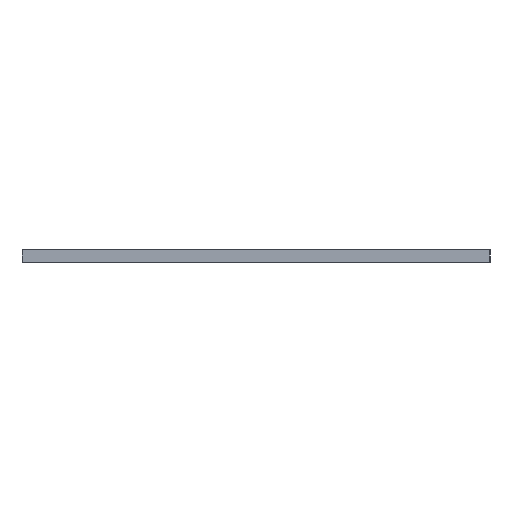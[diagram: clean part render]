
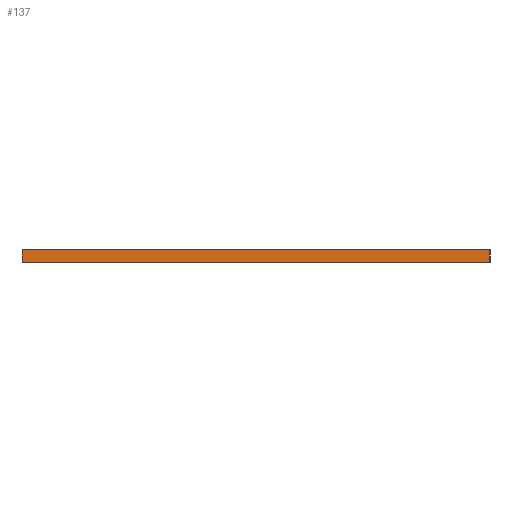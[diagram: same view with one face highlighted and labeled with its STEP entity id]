
A CAD part, left-side view. The second image highlights one B-rep face of the part: STEP entity #137.
In plain terms, the highlighted planar face has unit normal (-1, 0, 0).
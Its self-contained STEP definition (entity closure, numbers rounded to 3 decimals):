
#21 = EDGE_CURVE('',#22,#24,#26,.T.);
#22 = VERTEX_POINT('',#23);
#23 = CARTESIAN_POINT('',(-160.,-38.,0.));
#24 = VERTEX_POINT('',#25);
#25 = CARTESIAN_POINT('',(-160.,-38.,2.));
#26 = SURFACE_CURVE('',#27,(#31,#43),.PCURVE_S1.);
#27 = LINE('',#28,#29);
#28 = CARTESIAN_POINT('',(-160.,-38.,0.));
#29 = VECTOR('',#30,1.);
#30 = DIRECTION('',(0.,0.,1.));
#31 = PCURVE('',#32,#37);
#32 = PLANE('',#33);
#33 = AXIS2_PLACEMENT_3D('',#34,#35,#36);
#34 = CARTESIAN_POINT('',(-160.,-38.,0.));
#35 = DIRECTION('',(0.,1.,0.));
#36 = DIRECTION('',(1.,0.,0.));
#37 = DEFINITIONAL_REPRESENTATION('',(#38),#42);
#38 = LINE('',#39,#40);
#39 = CARTESIAN_POINT('',(0.,0.));
#40 = VECTOR('',#41,1.);
#41 = DIRECTION('',(0.,-1.));
#42 = ( GEOMETRIC_REPRESENTATION_CONTEXT(2) 
PARAMETRIC_REPRESENTATION_CONTEXT() REPRESENTATION_CONTEXT('2D SPACE',''
  ) );
#43 = PCURVE('',#44,#49);
#44 = PLANE('',#45);
#45 = AXIS2_PLACEMENT_3D('',#46,#47,#48);
#46 = CARTESIAN_POINT('',(-160.,38.,0.));
#47 = DIRECTION('',(1.,0.,-0.));
#48 = DIRECTION('',(0.,-1.,0.));
#49 = DEFINITIONAL_REPRESENTATION('',(#50),#54);
#50 = LINE('',#51,#52);
#51 = CARTESIAN_POINT('',(76.,0.));
#52 = VECTOR('',#53,1.);
#53 = DIRECTION('',(0.,-1.));
#54 = ( GEOMETRIC_REPRESENTATION_CONTEXT(2) 
PARAMETRIC_REPRESENTATION_CONTEXT() REPRESENTATION_CONTEXT('2D SPACE',''
  ) );
#72 = PLANE('',#73);
#73 = AXIS2_PLACEMENT_3D('',#74,#75,#76);
#74 = CARTESIAN_POINT('',(0.,0.,2.));
#75 = DIRECTION('',(0.,0.,1.));
#76 = DIRECTION('',(1.,0.,-0.));
#126 = PLANE('',#127);
#127 = AXIS2_PLACEMENT_3D('',#128,#129,#130);
#128 = CARTESIAN_POINT('',(0.,0.,0.));
#129 = DIRECTION('',(0.,0.,1.));
#130 = DIRECTION('',(1.,0.,-0.));
#137 = ADVANCED_FACE('',(#138),#44,.F.);
#138 = FACE_BOUND('',#139,.F.);
#139 = EDGE_LOOP('',(#140,#170,#191,#192));
#140 = ORIENTED_EDGE('',*,*,#141,.T.);
#141 = EDGE_CURVE('',#142,#144,#146,.T.);
#142 = VERTEX_POINT('',#143);
#143 = CARTESIAN_POINT('',(-160.,38.,0.));
#144 = VERTEX_POINT('',#145);
#145 = CARTESIAN_POINT('',(-160.,38.,2.));
#146 = SURFACE_CURVE('',#147,(#151,#158),.PCURVE_S1.);
#147 = LINE('',#148,#149);
#148 = CARTESIAN_POINT('',(-160.,38.,0.));
#149 = VECTOR('',#150,1.);
#150 = DIRECTION('',(0.,0.,1.));
#151 = PCURVE('',#44,#152);
#152 = DEFINITIONAL_REPRESENTATION('',(#153),#157);
#153 = LINE('',#154,#155);
#154 = CARTESIAN_POINT('',(0.,0.));
#155 = VECTOR('',#156,1.);
#156 = DIRECTION('',(0.,-1.));
#157 = ( GEOMETRIC_REPRESENTATION_CONTEXT(2) 
PARAMETRIC_REPRESENTATION_CONTEXT() REPRESENTATION_CONTEXT('2D SPACE',''
  ) );
#158 = PCURVE('',#159,#164);
#159 = PLANE('',#160);
#160 = AXIS2_PLACEMENT_3D('',#161,#162,#163);
#161 = CARTESIAN_POINT('',(160.,38.,0.));
#162 = DIRECTION('',(0.,-1.,0.));
#163 = DIRECTION('',(-1.,0.,0.));
#164 = DEFINITIONAL_REPRESENTATION('',(#165),#169);
#165 = LINE('',#166,#167);
#166 = CARTESIAN_POINT('',(320.,0.));
#167 = VECTOR('',#168,1.);
#168 = DIRECTION('',(0.,-1.));
#169 = ( GEOMETRIC_REPRESENTATION_CONTEXT(2) 
PARAMETRIC_REPRESENTATION_CONTEXT() REPRESENTATION_CONTEXT('2D SPACE',''
  ) );
#170 = ORIENTED_EDGE('',*,*,#171,.T.);
#171 = EDGE_CURVE('',#144,#24,#172,.T.);
#172 = SURFACE_CURVE('',#173,(#177,#184),.PCURVE_S1.);
#173 = LINE('',#174,#175);
#174 = CARTESIAN_POINT('',(-160.,38.,2.));
#175 = VECTOR('',#176,1.);
#176 = DIRECTION('',(0.,-1.,0.));
#177 = PCURVE('',#44,#178);
#178 = DEFINITIONAL_REPRESENTATION('',(#179),#183);
#179 = LINE('',#180,#181);
#180 = CARTESIAN_POINT('',(0.,-2.));
#181 = VECTOR('',#182,1.);
#182 = DIRECTION('',(1.,0.));
#183 = ( GEOMETRIC_REPRESENTATION_CONTEXT(2) 
PARAMETRIC_REPRESENTATION_CONTEXT() REPRESENTATION_CONTEXT('2D SPACE',''
  ) );
#184 = PCURVE('',#72,#185);
#185 = DEFINITIONAL_REPRESENTATION('',(#186),#190);
#186 = LINE('',#187,#188);
#187 = CARTESIAN_POINT('',(-160.,38.));
#188 = VECTOR('',#189,1.);
#189 = DIRECTION('',(0.,-1.));
#190 = ( GEOMETRIC_REPRESENTATION_CONTEXT(2) 
PARAMETRIC_REPRESENTATION_CONTEXT() REPRESENTATION_CONTEXT('2D SPACE',''
  ) );
#191 = ORIENTED_EDGE('',*,*,#21,.F.);
#192 = ORIENTED_EDGE('',*,*,#193,.F.);
#193 = EDGE_CURVE('',#142,#22,#194,.T.);
#194 = SURFACE_CURVE('',#195,(#199,#206),.PCURVE_S1.);
#195 = LINE('',#196,#197);
#196 = CARTESIAN_POINT('',(-160.,38.,0.));
#197 = VECTOR('',#198,1.);
#198 = DIRECTION('',(0.,-1.,0.));
#199 = PCURVE('',#44,#200);
#200 = DEFINITIONAL_REPRESENTATION('',(#201),#205);
#201 = LINE('',#202,#203);
#202 = CARTESIAN_POINT('',(0.,0.));
#203 = VECTOR('',#204,1.);
#204 = DIRECTION('',(1.,0.));
#205 = ( GEOMETRIC_REPRESENTATION_CONTEXT(2) 
PARAMETRIC_REPRESENTATION_CONTEXT() REPRESENTATION_CONTEXT('2D SPACE',''
  ) );
#206 = PCURVE('',#126,#207);
#207 = DEFINITIONAL_REPRESENTATION('',(#208),#212);
#208 = LINE('',#209,#210);
#209 = CARTESIAN_POINT('',(-160.,38.));
#210 = VECTOR('',#211,1.);
#211 = DIRECTION('',(0.,-1.));
#212 = ( GEOMETRIC_REPRESENTATION_CONTEXT(2) 
PARAMETRIC_REPRESENTATION_CONTEXT() REPRESENTATION_CONTEXT('2D SPACE',''
  ) );
